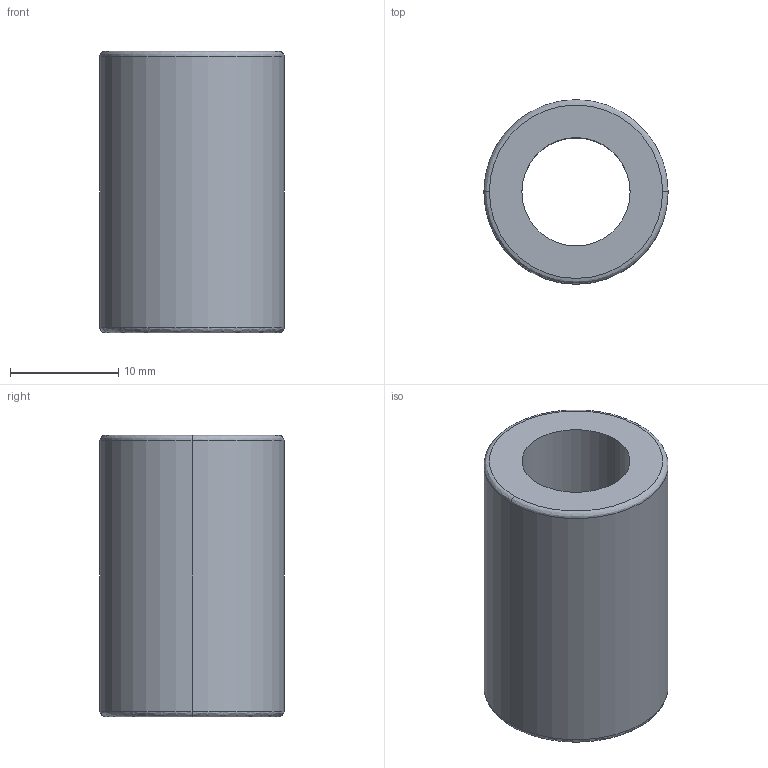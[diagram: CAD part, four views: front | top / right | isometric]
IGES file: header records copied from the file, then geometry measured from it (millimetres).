
Start section: 3D InterOp IGES (Version 21 0 1), Spatial Corp. Copyright (c) 1999-2007.
Global section: file name: CB-10.igs; native system: Spatial Corp.; preprocessor: 3D InterOp GENERIC/IGES 3.0; author: Noname; organization: Noname; date: 20220216.101611; units: millimetre
Bounding box: 17 x 17 x 26 mm (x, y, z)
Surface area: 2479.1 mm2 (no closed solid volume)
Topology: 0 solids, 0 shells, 10 faces, 40 edges, 40 vertices
Faces by surface type: revolution 8, extrusion 2
